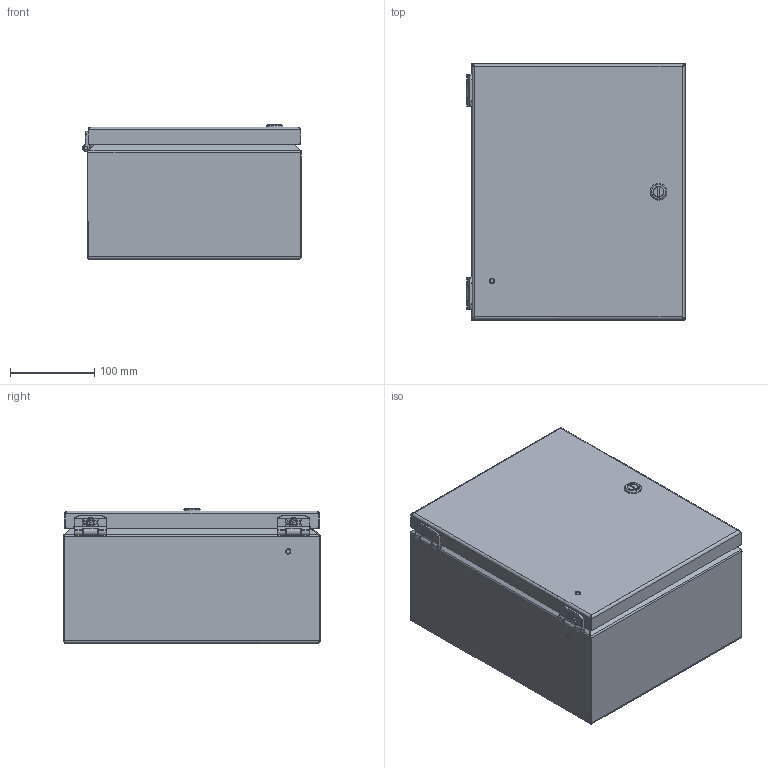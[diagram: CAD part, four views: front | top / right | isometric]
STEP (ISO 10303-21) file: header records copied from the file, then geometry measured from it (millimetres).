
FILE_DESCRIPTION((''),'2;1');
FILE_NAME('MODEL-059_ASM','2025-08-14T11:26:37',('joshi'),('SAGINAW CONTROL & ENGINEERING'),'CREO PARAMETRIC BY PTC INC, 2021284','CREO PARAMETRIC BY PTC INC, 2021284','');
FILE_SCHEMA(('AUTOMOTIVE_DESIGN { 1 0 10303 214 1 1 1 1 }'));
Length unit declared in the file: inch
Products named in the file (25): MODEL-059-BDY; MODEL-059-DR; 112643-BOX-LEAF; 112643-BOX-LEAF-STUD; 112643-BOX_ASM; 112643-DOOR-LEAF; 112643-DOOR-LEAF-STUD; 112643-DOOR_ASM; 112643-PIN; 112643_ASM; 113152; 100097; 100012; 112987_SHAFT; 112987_SCREW; 112987_CAM; 112987_INSERT; 112987_NUT; 112987_ASM; MODEL-059-GSKT; 120706; CH-ELJ_SUBPANEL; 102479; CH-ELJ_SUBPANEL-SUBASSEMBLY_ASM; MODEL-059_ASM
Assembly tree (35 placements, depth 4):
  MODEL-059_ASM
    MODEL-059-BDY
    MODEL-059-DR
    112643_ASM  x2
      112643-BOX_ASM
        112643-BOX-LEAF
        112643-BOX-LEAF-STUD
      112643-DOOR_ASM
        112643-DOOR-LEAF
        112643-DOOR-LEAF-STUD
      112643-PIN
    113152  x4
    100097  x2
    100012  x4
    112987_ASM
      112987_SHAFT
      112987_SCREW
      112987_CAM
      112987_INSERT
      112987_NUT
    MODEL-059-GSKT
    120706
    CH-ELJ_SUBPANEL-SUBASSEMBLY_ASM
      CH-ELJ_SUBPANEL
      102479  x4
Bounding box: 259.6 x 304.8 x 160.19 mm (x, y, z)
Volume: 703660.6 mm3; surface area: 867254.8 mm2
Topology: 33 solids, 35 shells, 3292 faces, 8479 edges, 5213 vertices
Faces by surface type: plane 1028, cylinder 925, bspline 874, cone 341, torus 114, sphere 10
Entity records: 116980 total; most frequent: CARTESIAN_POINT 59883, ORIENTED_EDGE 8818, DIRECTION 7193, PRESENTATION_STYLE_ASSIGNMENT 4643, STYLED_ITEM 4633, CURVE_STYLE 4409, EDGE_CURVE 4409, VERTEX_POINT 2751
